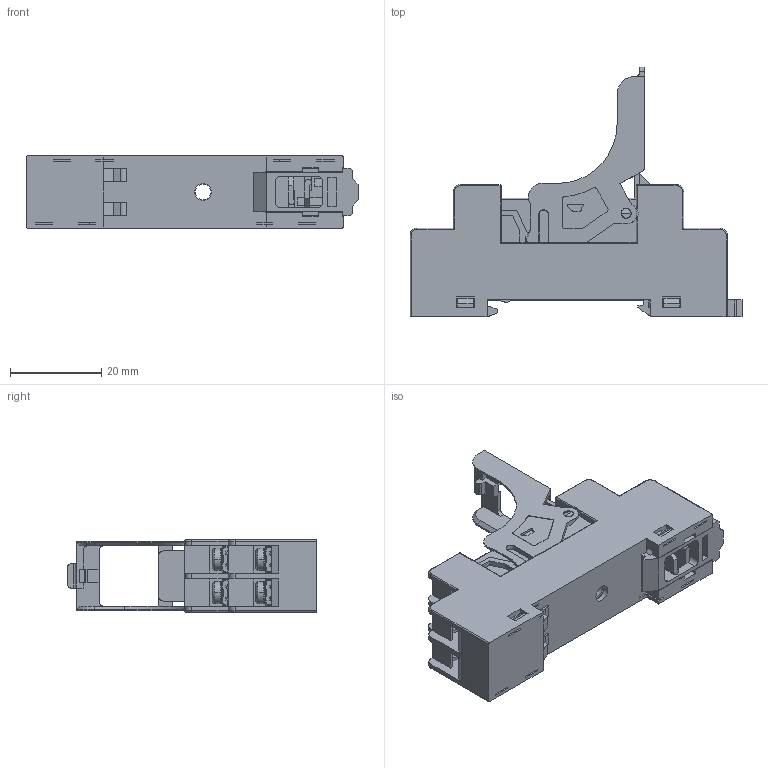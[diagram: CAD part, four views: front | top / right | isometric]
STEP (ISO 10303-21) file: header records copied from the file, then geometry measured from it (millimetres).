
FILE_DESCRIPTION (( 'STEP AP203' ), '1' );
FILE_NAME ('SRT08-ES 俋倛.STEP', '2023-01-12T01:29:25', ( '' ), ( '' ), 'SwSTEP 2.0', 'SolidWorks 2018', '' );
FILE_SCHEMA (( 'CONFIG_CONTROL_DESIGN' ));
Products named in the file (1): SRT08-ES 俋倛
Bounding box: 72.85 x 54.79 x 15.8 mm (x, y, z)
Volume: 21935.9 mm3; surface area: 14033.4 mm2
Topology: 1 solids, 1 shells, 2178 faces, 5970 edges, 3736 vertices
Faces by surface type: plane 942, cylinder 493, bspline 384, torus 184, cone 107, sphere 68
Entity records: 76029 total; most frequent: CARTESIAN_POINT 24482, ORIENTED_EDGE 11772, DIRECTION 9524, EDGE_CURVE 5886, VERTEX_POINT 3736, AXIS2_PLACEMENT_3D 3295, VECTOR 2934, LINE 2934
